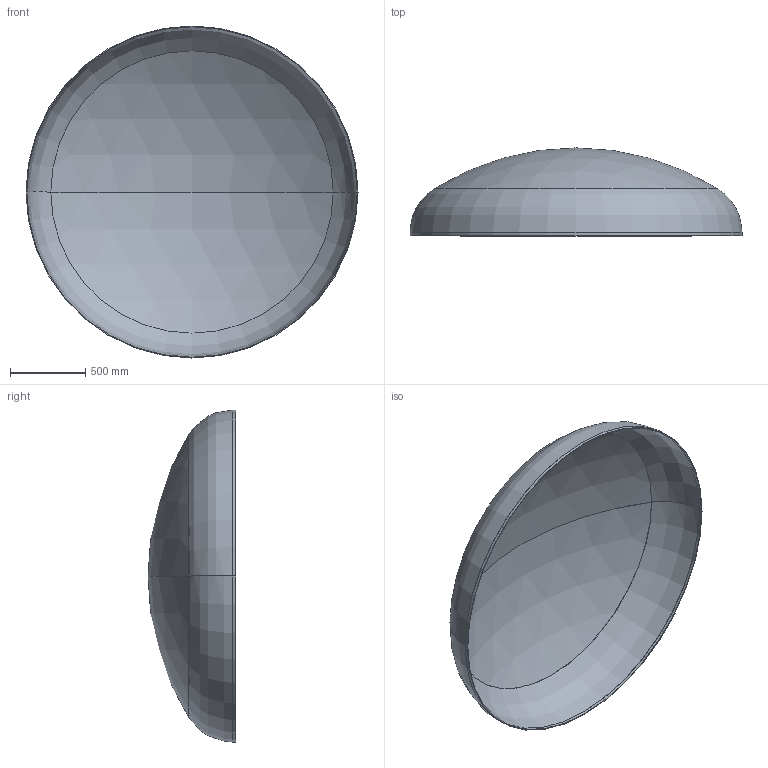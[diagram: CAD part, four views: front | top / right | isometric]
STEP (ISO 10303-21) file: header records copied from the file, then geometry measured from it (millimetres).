
FILE_DESCRIPTION (( 'STEP AP203' ), '1' );
FILE_NAME ('DIN 28013 Korbbogenform_-_Boden DIN 28013 - 2200 x 20 - I - s=5.step', '2016-07-01T14:15:53', ( '' ), ( '' ), 'SwSTEP 2.0', 'SolidWorks 2013', '' );
FILE_SCHEMA (( 'CONFIG_CONTROL_DESIGN' ));
Length unit declared in the file: millimetre
Products named in the file (1): DIN 28013 Korbbogenform_-_Boden DIN 28013 - 2200 x 20 - I - s=5
Bounding box: 2200 x 582.35 x 2200 mm (x, y, z)
Volume: 26954805.2 mm3; surface area: 10816449 mm2
Topology: 1 solids, 1 shells, 13 faces, 24 edges, 14 vertices
Faces by surface type: torus 4, cylinder 4, sphere 4, plane 1
Entity records: 407 total; most frequent: DIRECTION 72, CARTESIAN_POINT 52, ORIENTED_EDGE 48, AXIS2_PLACEMENT_3D 34, EDGE_CURVE 24, CIRCLE 20, VERTEX_POINT 14, EDGE_LOOP 14
